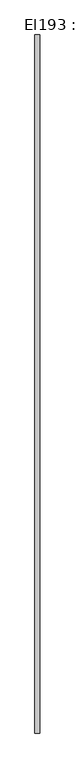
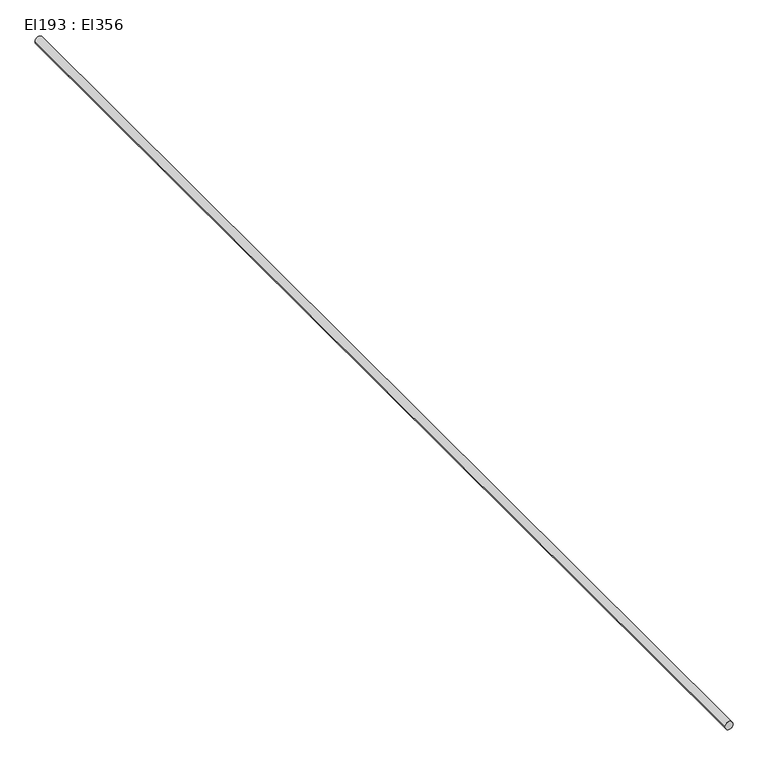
"""IFC4 building model written with IfcOpenShell, lengths in millimetres: cable carrier segment geometry, El193 : El356."""

from ifc_helpers import new_model, si_unit, point, frame, frame_2d, origin, place, context, project, spatial, circle_curve, trimmed, segment, composite_curve, outline, extrude, source, transform, mapped, element, save


def el193_el356_b3d39168(model_context):
    return source(origin(), model_context, "Body", "SweptSolid", [
        extrude(outline(composite_curve([segment(trimmed(circle_curve(frame_2d((1500.0, 5661.0646511)), 37.5), [point((1500.0, 5623.5646511))], [point((1500.0, 5698.5646511))], False, "CARTESIAN"), True, "CONTINUOUS"), segment(trimmed(circle_curve(frame_2d((1500.0, 5661.0646511)), 37.5), [point((1500.0, 5698.5646511))], [point((1500.0, 5623.5646511))], False, "CARTESIAN"), True, "CONTINUOUS")], self_intersect=False)), frame((0.0, 6737.0421745, 0.0), z_axis=(0.0, 1.0, 0.0), x_axis=(0.0, 0.0, 1.0)), (0.0, 0.0, 1.0), 10712.1),
    ])


if __name__ == "__main__":
    model = new_model("IFC4")
    model_context = context("Model", 3, world=origin())
    ifc_project = project(units=[si_unit("LENGTHUNIT", "METRE", prefix="MILLI")], contexts=[model_context])
    site = spatial("IfcSite", under=ifc_project)
    building = spatial("IfcBuilding", under=site)
    placement = place(None, origin())
    el193_el356_shape = el193_el356_b3d39168(model_context)
    element("IfcCableCarrierSegment", 1, ObjectType="El193 : El356", at=placement, inside=building, context=model_context, shape_type="MappedRepresentation", body=[
        mapped(el193_el356_shape, transform((0.0, 0.0, 0.0), x_axis=(1.0, 0.0, 0.0), y_axis=(0.0, 1.0, 0.0), z_axis=(0.0, 0.0, 1.0))),
    ])
    save(model, "model.ifc")
